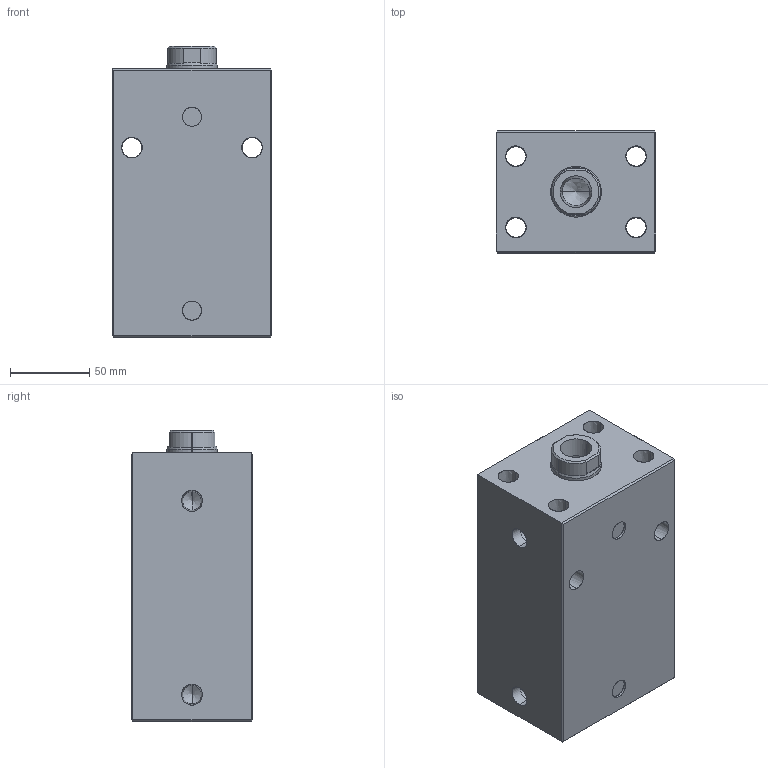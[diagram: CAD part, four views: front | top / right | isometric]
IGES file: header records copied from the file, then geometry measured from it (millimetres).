
Start section: SolidWorks IGES file using analytic representation for surfaces
Global section: file name: E:\ALL-SSVT-BLOCK\50BORE-IGS-MODEL\BC04-50-75-F.IGS; native system: SolidWorks 2019; preprocessor: SolidWorks 2019; author: SSVT; date: 210825.153724; units: millimetre
Bounding box: 101 x 77 x 184 mm (x, y, z)
Surface area: 141465.4 mm2 (no closed solid volume)
Topology: 0 solids, 0 shells, 96 faces, 1751 edges, 1745 vertices
Faces by surface type: revolution 62, bspline 34
